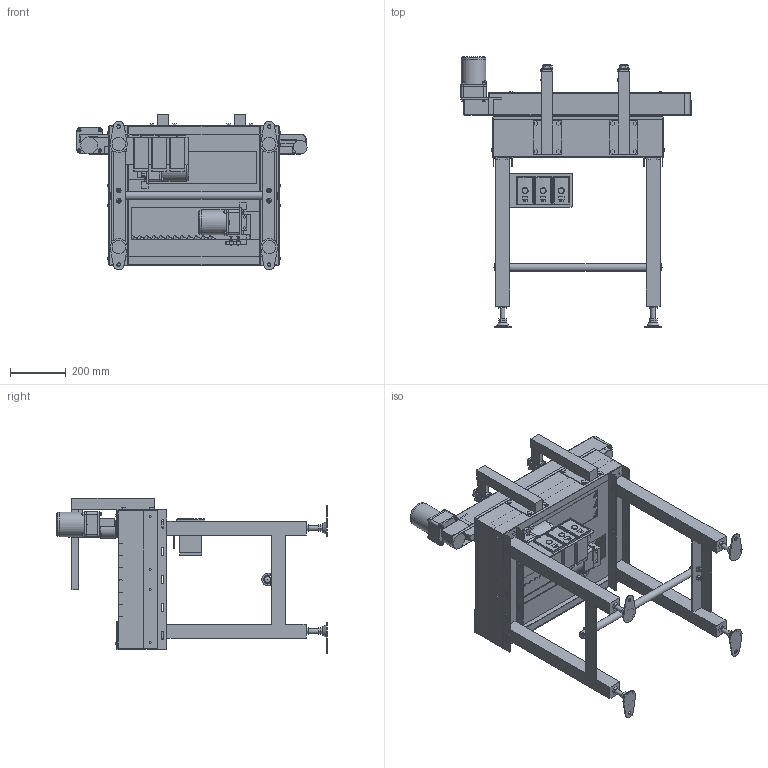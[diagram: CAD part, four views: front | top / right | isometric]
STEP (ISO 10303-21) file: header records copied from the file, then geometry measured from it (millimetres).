
FILE_DESCRIPTION (( 'STEP AP214' ), '1' );
FILE_NAME ('SGA-300-L-B.STEP', '2022-04-12T01:44:40', ( '' ), ( '' ), 'SwSTEP 2.0', 'SolidWorks 2017', '' );
FILE_SCHEMA (( 'AUTOMOTIVE_DESIGN' ));
Length unit declared in the file: millimetre
Products named in the file (18): SWD-SGA-S-ｺﾝﾄﾛｰﾗﾌﾞﾗｹｯﾄ(勝手違い); SWD-UBM540-403-E2+5GN3-18K_t4; SWD-SGA-S-原動ｶﾊﾞｰ(勝手違い); SWD-SGA-S-ﾛｰﾗ部(勝手違い)_300幅; SGA-300-L-B; SWD-SGA-衛動葀杺_590; SWD-SGA-S-原動部(勝手違い); VFD001L21A_WEB図; SWD-SGA-S-ﾃｰｸｱｯﾌﾟ(勝手違い); SWD-SGA-S-徊霓娃詭x帩; SWD-SGA-S-狠嫩白(彑庤堘偄); SWD-SGA-S-脚_300幅; SWD-U-010 Assy_固定板t6; SWD-SGA-S-ﾍﾞｰｽﾌﾚｰﾑ(勝手違い)_300幅; SWD-AJ-020(75mm); SK-34-WH; SWD-UBM540-403-E2+5GN3-18K; SWD-SGA-S-ｻｲﾄﾞﾍﾞﾔ(勝手違い)_300両側飛出し
Assembly tree (27 placements, depth 3):
  SGA-300-L-B
    SWD-SGA-S-ﾍﾞｰｽﾌﾚｰﾑ(勝手違い)_300幅
    SWD-SGA-S-ﾛｰﾗ部(勝手違い)_300幅
    SWD-SGA-S-脚_300幅  x2
    SWD-AJ-020(75mm)  x4
    SWD-U-010 Assy_固定板t6  x2
    SWD-SGA-衛動葀杺_590
    SWD-SGA-S-原動部(勝手違い)  x2
      SWD-UBM540-403-E2+5GN3-18K_t4
      SWD-SGA-S-原動ｶﾊﾞｰ(勝手違い)
      SWD-SGA-S-ﾃｰｸｱｯﾌﾟ(勝手違い)
    SWD-SGA-S-狠嫩白(彑庤堘偄)
      SWD-SGA-S-ｺﾝﾄﾛｰﾗﾌﾞﾗｹｯﾄ(勝手違い)
      VFD001L21A_WEB図  x3
    SWD-SGA-S-徊霓娃詭x帩  x2
    SK-34-WH  x2
    SWD-SGA-S-ｻｲﾄﾞﾍﾞﾔ(勝手違い)_300両側飛出し
    SWD-UBM540-403-E2+5GN3-18K
Bounding box: 825.9 x 969.4 x 560 mm (x, y, z)
Volume: 20333498.7 mm3; surface area: 4282185.1 mm2
Topology: 81 solids, 82 shells, 2566 faces, 6349 edges, 4101 vertices
Faces by surface type: plane 1759, cylinder 525, cone 161, bspline 64, torus 34, sphere 23
Full cylindrical faces by diameter (mm): 2 x3, 4.5 x6, 5 x14, 5.5 x3, 6 x34, 6.5 x24, 6.6 x12, 7 x4, 8 x10, 8.49 x3, 9 x8, 10 x12, 10.5 x1, 11.5 x2, 12 x3, 12.2 x2, 12.5 x12, 13 x4, 16 x10, 17 x4, 20 x1, 22 x1, 27.2 x1, 28 x2, 36 x3, 40 x4, 50 x2, 83 x3, 84 x3, 86.3 x3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
Entity records: 56567 total; most frequent: CARTESIAN_POINT 10215, ORIENTED_EDGE 7882, DIRECTION 7834, EDGE_CURVE 3941, VECTOR 2978, LINE 2978, VERTEX_POINT 2671, AXIS2_PLACEMENT_3D 2428
